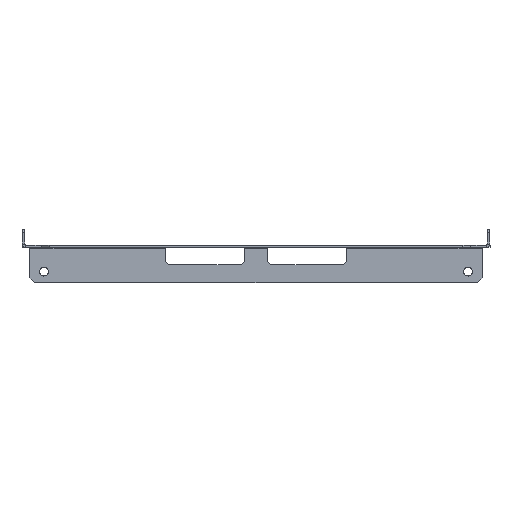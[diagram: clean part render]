
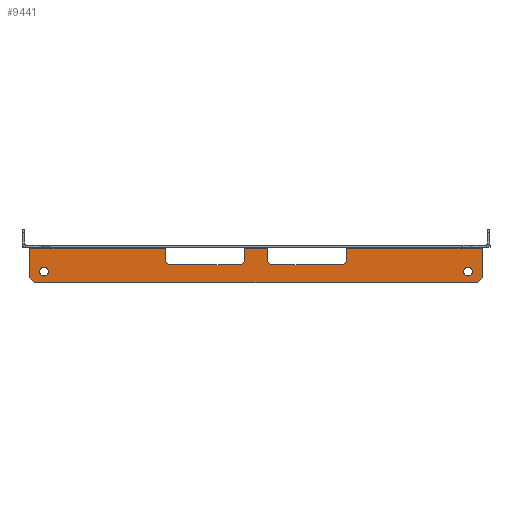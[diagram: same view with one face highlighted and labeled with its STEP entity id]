
A CAD part, front view. The second image highlights one B-rep face of the part: STEP entity #9441.
In plain terms, the highlighted planar face has unit normal (0, -1, 0).
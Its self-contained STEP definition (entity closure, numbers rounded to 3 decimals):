
#8471=CARTESIAN_POINT(' ',(135.,37.,-17.));
#8476=DIRECTION(' ',(0.,-1.,0.));
#8481=DIRECTION(' ',(0.,0.,1.));
#8486=AXIS2_PLACEMENT_3D(' ',#8471,#8476,#8481);
#8491=CIRCLE('',#8486,2.75);
#8496=CARTESIAN_POINT(' ',(135.,37.,-14.25));
#8497=VERTEX_POINT(' ',#8496);
#8501=CARTESIAN_POINT(' ',(135.,37.,-19.75));
#8502=VERTEX_POINT(' ',#8501);
#8506=EDGE_CURVE(' ',#8497,#8502,#8491,.T.);
#8636=DIRECTION(' ',(0.,-1.,0.));
#8641=CARTESIAN_POINT(' ',(-144.,37.,-2.1));
#8646=DIRECTION(' ',(0.,0.,-1.));
#8651=AXIS2_PLACEMENT_3D(' ',#8641,#8636,#8646);
#8656=PLANE('NONE',#8651);
#8661=CARTESIAN_POINT(' ',(57.5,37.,-2.1));
#8666=DIRECTION(' ',(0.,0.,-1.));
#8671=VECTOR(' ',#8666,1.);
#8676=LINE('',#8661,#8671);
#8681=CARTESIAN_POINT(' ',(57.5,37.,-2.1));
#8682=VERTEX_POINT(' ',#8681);
#8686=CARTESIAN_POINT(' ',(57.5,37.,-10.5));
#8687=VERTEX_POINT(' ',#8686);
#8691=EDGE_CURVE(' ',#8682,#8687,#8676,.T.);
#8696=ORIENTED_EDGE(' ',*,*,#8691,.T.);
#8701=CARTESIAN_POINT(' ',(57.5,37.,-10.5));
#8706=DIRECTION(' ',(-0.707,0.,-0.707));
#8711=VECTOR(' ',#8706,1.);
#8716=LINE('',#8701,#8711);
#8721=CARTESIAN_POINT(' ',(55.5,37.,-12.5));
#8722=VERTEX_POINT(' ',#8721);
#8726=EDGE_CURVE(' ',#8687,#8722,#8716,.T.);
#8731=ORIENTED_EDGE(' ',*,*,#8726,.T.);
#8736=CARTESIAN_POINT(' ',(55.5,37.,-12.5));
#8741=DIRECTION(' ',(-1.,0.,0.));
#8746=VECTOR(' ',#8741,1.);
#8751=LINE('',#8736,#8746);
#8756=CARTESIAN_POINT(' ',(9.5,37.,-12.5));
#8757=VERTEX_POINT(' ',#8756);
#8761=EDGE_CURVE(' ',#8722,#8757,#8751,.T.);
#8766=ORIENTED_EDGE(' ',*,*,#8761,.T.);
#8771=CARTESIAN_POINT(' ',(9.5,37.,-12.5));
#8776=DIRECTION(' ',(-0.707,0.,0.707));
#8781=VECTOR(' ',#8776,1.);
#8786=LINE('',#8771,#8781);
#8791=CARTESIAN_POINT(' ',(7.5,37.,-10.5));
#8792=VERTEX_POINT(' ',#8791);
#8796=EDGE_CURVE(' ',#8757,#8792,#8786,.T.);
#8801=ORIENTED_EDGE(' ',*,*,#8796,.T.);
#8806=CARTESIAN_POINT(' ',(7.5,37.,-10.5));
#8811=DIRECTION(' ',(0.,0.,1.));
#8816=VECTOR(' ',#8811,1.);
#8821=LINE('',#8806,#8816);
#8826=CARTESIAN_POINT(' ',(7.5,37.,-2.1));
#8827=VERTEX_POINT(' ',#8826);
#8831=EDGE_CURVE(' ',#8792,#8827,#8821,.T.);
#8836=ORIENTED_EDGE(' ',*,*,#8831,.T.);
#8841=CARTESIAN_POINT(' ',(-7.5,37.,-2.1));
#8846=DIRECTION(' ',(1.,0.,0.));
#8851=VECTOR(' ',#8846,1.);
#8856=LINE('',#8841,#8851);
#8861=CARTESIAN_POINT(' ',(-7.5,37.,-2.1));
#8862=VERTEX_POINT(' ',#8861);
#8866=EDGE_CURVE(' ',#8862,#8827,#8856,.T.);
#8871=ORIENTED_EDGE(' ',*,*,#8866,.F.);
#8876=CARTESIAN_POINT(' ',(-7.5,37.,-2.1));
#8881=DIRECTION(' ',(0.,0.,-1.));
#8886=VECTOR(' ',#8881,1.);
#8891=LINE('',#8876,#8886);
#8896=CARTESIAN_POINT(' ',(-7.5,37.,-10.5));
#8897=VERTEX_POINT(' ',#8896);
#8901=EDGE_CURVE(' ',#8862,#8897,#8891,.T.);
#8906=ORIENTED_EDGE(' ',*,*,#8901,.T.);
#8911=CARTESIAN_POINT(' ',(-7.5,37.,-10.5));
#8916=DIRECTION(' ',(-0.707,0.,-0.707));
#8921=VECTOR(' ',#8916,1.);
#8926=LINE('',#8911,#8921);
#8931=CARTESIAN_POINT(' ',(-9.5,37.,-12.5));
#8932=VERTEX_POINT(' ',#8931);
#8936=EDGE_CURVE(' ',#8897,#8932,#8926,.T.);
#8941=ORIENTED_EDGE(' ',*,*,#8936,.T.);
#8946=CARTESIAN_POINT(' ',(-9.5,37.,-12.5));
#8951=DIRECTION(' ',(-1.,0.,0.));
#8956=VECTOR(' ',#8951,1.);
#8961=LINE('',#8946,#8956);
#8966=CARTESIAN_POINT(' ',(-55.5,37.,-12.5));
#8967=VERTEX_POINT(' ',#8966);
#8971=EDGE_CURVE(' ',#8932,#8967,#8961,.T.);
#8976=ORIENTED_EDGE(' ',*,*,#8971,.T.);
#8981=CARTESIAN_POINT(' ',(-55.5,37.,-12.5));
#8986=DIRECTION(' ',(-0.707,0.,0.707));
#8991=VECTOR(' ',#8986,1.);
#8996=LINE('',#8981,#8991);
#9001=CARTESIAN_POINT(' ',(-57.5,37.,-10.5));
#9002=VERTEX_POINT(' ',#9001);
#9006=EDGE_CURVE(' ',#8967,#9002,#8996,.T.);
#9011=ORIENTED_EDGE(' ',*,*,#9006,.T.);
#9016=CARTESIAN_POINT(' ',(-57.5,37.,-10.5));
#9021=DIRECTION(' ',(0.,0.,1.));
#9026=VECTOR(' ',#9021,1.);
#9031=LINE('',#9016,#9026);
#9036=CARTESIAN_POINT(' ',(-57.5,37.,-2.1));
#9037=VERTEX_POINT(' ',#9036);
#9041=EDGE_CURVE(' ',#9002,#9037,#9031,.T.);
#9046=ORIENTED_EDGE(' ',*,*,#9041,.T.);
#9051=CARTESIAN_POINT(' ',(-144.,37.,-2.1));
#9056=DIRECTION(' ',(1.,0.,0.));
#9061=VECTOR(' ',#9056,1.);
#9066=LINE('',#9051,#9061);
#9071=CARTESIAN_POINT(' ',(-144.,37.,-2.1));
#9072=VERTEX_POINT(' ',#9071);
#9076=EDGE_CURVE(' ',#9072,#9037,#9066,.T.);
#9081=ORIENTED_EDGE(' ',*,*,#9076,.F.);
#9086=CARTESIAN_POINT(' ',(-144.,37.,-21.));
#9091=DIRECTION(' ',(0.,0.,1.));
#9096=VECTOR(' ',#9091,1.);
#9101=LINE('',#9086,#9096);
#9106=CARTESIAN_POINT(' ',(-144.,37.,-21.));
#9107=VERTEX_POINT(' ',#9106);
#9111=EDGE_CURVE(' ',#9107,#9072,#9101,.T.);
#9116=ORIENTED_EDGE(' ',*,*,#9111,.F.);
#9121=CARTESIAN_POINT(' ',(-144.,37.,-21.));
#9126=DIRECTION(' ',(0.707,0.,-0.707));
#9131=VECTOR(' ',#9126,1.);
#9136=LINE('',#9121,#9131);
#9141=CARTESIAN_POINT(' ',(-141.,37.,-24.));
#9142=VERTEX_POINT(' ',#9141);
#9146=EDGE_CURVE(' ',#9107,#9142,#9136,.T.);
#9151=ORIENTED_EDGE(' ',*,*,#9146,.T.);
#9156=CARTESIAN_POINT(' ',(141.,37.,-24.));
#9161=DIRECTION(' ',(-1.,0.,0.));
#9166=VECTOR(' ',#9161,1.);
#9171=LINE('',#9156,#9166);
#9176=CARTESIAN_POINT(' ',(141.,37.,-24.));
#9177=VERTEX_POINT(' ',#9176);
#9181=EDGE_CURVE(' ',#9177,#9142,#9171,.T.);
#9186=ORIENTED_EDGE(' ',*,*,#9181,.F.);
#9191=CARTESIAN_POINT(' ',(141.,37.,-24.));
#9196=DIRECTION(' ',(0.707,0.,0.707));
#9201=VECTOR(' ',#9196,1.);
#9206=LINE('',#9191,#9201);
#9211=CARTESIAN_POINT(' ',(144.,37.,-21.));
#9212=VERTEX_POINT(' ',#9211);
#9216=EDGE_CURVE(' ',#9177,#9212,#9206,.T.);
#9221=ORIENTED_EDGE(' ',*,*,#9216,.T.);
#9226=CARTESIAN_POINT(' ',(144.,37.,-2.1));
#9231=DIRECTION(' ',(0.,0.,-1.));
#9236=VECTOR(' ',#9231,1.);
#9241=LINE('',#9226,#9236);
#9246=CARTESIAN_POINT(' ',(144.,37.,-2.1));
#9247=VERTEX_POINT(' ',#9246);
#9251=EDGE_CURVE(' ',#9247,#9212,#9241,.T.);
#9256=ORIENTED_EDGE(' ',*,*,#9251,.F.);
#9261=CARTESIAN_POINT(' ',(57.5,37.,-2.1));
#9266=DIRECTION(' ',(1.,0.,0.));
#9271=VECTOR(' ',#9266,1.);
#9276=LINE('',#9261,#9271);
#9281=EDGE_CURVE(' ',#8682,#9247,#9276,.T.);
#9286=ORIENTED_EDGE(' ',*,*,#9281,.F.);
#9291=EDGE_LOOP(' ',(#8696,#8731,#8766,#8801,#8836,#8871,#8906,#8941,#8976,#9011,#9046,#9081,#9116,#9151,#9186,#9221,#9256,#9286));
#9296=FACE_OUTER_BOUND(' ',#9291,.T.);
#9301=ORIENTED_EDGE(' ',*,*,#8506,.F.);
#9306=CARTESIAN_POINT(' ',(135.,37.,-17.));
#9311=DIRECTION(' ',(0.,-1.,0.));
#9316=DIRECTION(' ',(0.,0.,-1.));
#9321=AXIS2_PLACEMENT_3D(' ',#9306,#9311,#9316);
#9326=CIRCLE('',#9321,2.75);
#9331=EDGE_CURVE(' ',#8502,#8497,#9326,.T.);
#9336=ORIENTED_EDGE(' ',*,*,#9331,.F.);
#9341=EDGE_LOOP(' ',(#9301,#9336));
#9346=FACE_BOUND(' ',#9341,.T.);
#9351=CARTESIAN_POINT(' ',(-135.,37.,-17.));
#9356=DIRECTION(' ',(0.,-1.,0.));
#9361=DIRECTION(' ',(0.,0.,1.));
#9366=AXIS2_PLACEMENT_3D(' ',#9351,#9356,#9361);
#9371=CIRCLE('',#9366,2.75);
#9376=CARTESIAN_POINT(' ',(-135.,37.,-14.25));
#9377=VERTEX_POINT(' ',#9376);
#9381=CARTESIAN_POINT(' ',(-135.,37.,-19.75));
#9382=VERTEX_POINT(' ',#9381);
#9386=EDGE_CURVE(' ',#9377,#9382,#9371,.T.);
#9391=ORIENTED_EDGE(' ',*,*,#9386,.F.);
#9396=CARTESIAN_POINT(' ',(-135.,37.,-17.));
#9401=DIRECTION(' ',(0.,-1.,0.));
#9406=DIRECTION(' ',(0.,0.,-1.));
#9411=AXIS2_PLACEMENT_3D(' ',#9396,#9401,#9406);
#9416=CIRCLE('',#9411,2.75);
#9421=EDGE_CURVE(' ',#9382,#9377,#9416,.T.);
#9426=ORIENTED_EDGE(' ',*,*,#9421,.F.);
#9431=EDGE_LOOP(' ',(#9391,#9426));
#9436=FACE_BOUND(' ',#9431,.T.);
#9441=ADVANCED_FACE('NONE',(#9296,#9346,#9436),#8656,.T.);
